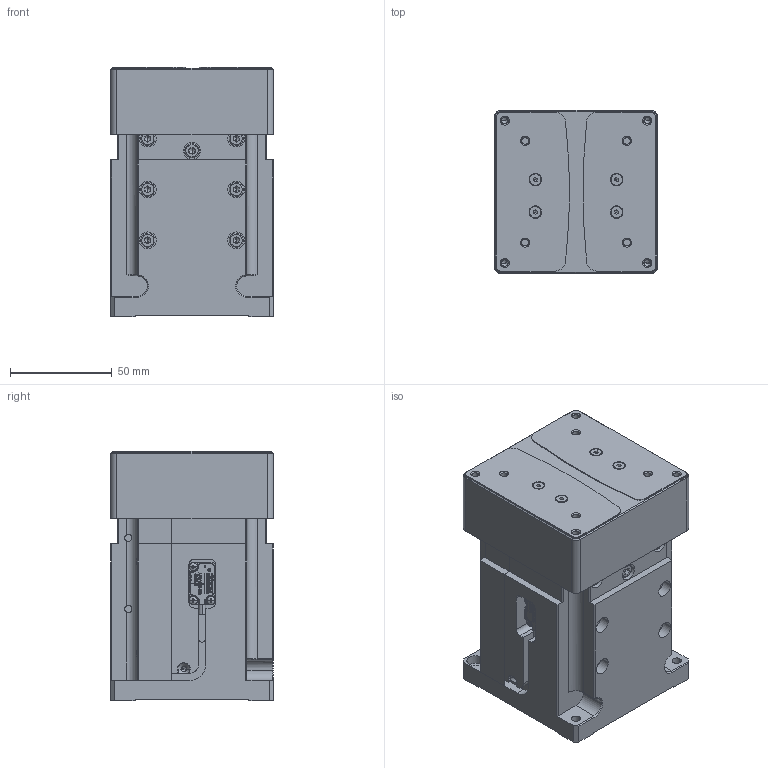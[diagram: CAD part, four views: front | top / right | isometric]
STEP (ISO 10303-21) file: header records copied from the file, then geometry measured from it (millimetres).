
FILE_DESCRIPTION (( 'STEP AP203' ), '1' );
FILE_NAME ('vs-0825c_nc.STEP', '2023-04-26T03:04:11', ( '微软用户' ), ( '微软中国' ), 'SwSTEP 2.0', 'SolidWorks 2021', '' );
FILE_SCHEMA (( 'CONFIG_CONTROL_DESIGN' ));
Length unit declared in the file: millimetre
Products named in the file (18): HT.stp; VR3_75HX10Z_0__AF0_ASM.stp; MDZJ.stp; vs-0825c_nc.stp; HTZJ.stp; cross recessed pan head screws gb_GB_CROSS_SCREWS_TYPE1 M2X3-3  H type-N; ATOM_20um.STEP; JZ.stp; hexagon socket head cap screws gb_GB_FASTENER_SCREWS_HSHCS M4X10-N; hexagon socket countersunk head screws gb_GB_FASTENER_SCREWS_HSCHS M3X8-N; M-9693-2499-02_A.stp.STEP; vs-0825c_nc; VR3_75_10Z_ROLLER_CAGE.stp; VR3_75_10Z_ROLLER_GUIDE.stp; VR3_75_10ZR1.stp; 3D_model__ATOM_20um_RTLF.stp.STEP; ATOM_20um; VR3_75HX10Z_0__AF1_ASM.stp
Assembly tree (36 placements, depth 5):
  vs-0825c_nc
    vs-0825c_nc.stp
      VR3_75HX10Z_0__AF0_ASM.stp
        VR3_75_10Z_ROLLER_GUIDE.stp
        VR3_75_10Z_ROLLER_CAGE.stp
        VR3_75_10ZR1.stp
      VR3_75HX10Z_0__AF1_ASM.stp
        VR3_75_10Z_ROLLER_GUIDE.stp
        VR3_75_10Z_ROLLER_CAGE.stp
        VR3_75_10ZR1.stp
      JZ.stp
      HTZJ.stp
      MDZJ.stp
      HT.stp
    ATOM_20um
      ATOM_20um.STEP
        3D_model__ATOM_20um_RTLF.stp.STEP
          M-9693-2499-02_A.stp.STEP
    hexagon socket head cap screws gb_GB_FASTENER_SCREWS_HSHCS M4X10-N  x12
    hexagon socket countersunk head screws gb_GB_FASTENER_SCREWS_HSCHS M3X8-N  x4
    cross recessed pan head screws gb_GB_CROSS_SCREWS_TYPE1 M2X3-3  H type-N  x3
Bounding box: 80 x 80 x 122.5 mm (x, y, z)
Volume: 545472.7 mm3; surface area: 163978.1 mm2
Topology: 31 solids, 31 shells, 2270 faces, 5882 edges, 3741 vertices
Faces by surface type: plane 1270, cylinder 573, cone 291, bspline 90, torus 40, sphere 6
Entity records: 56431 total; most frequent: CARTESIAN_POINT 14361, ORIENTED_EDGE 8552, DIRECTION 7779, EDGE_CURVE 4276, VERTEX_POINT 2791, AXIS2_PLACEMENT_3D 2713, LINE 2353, VECTOR 2353
